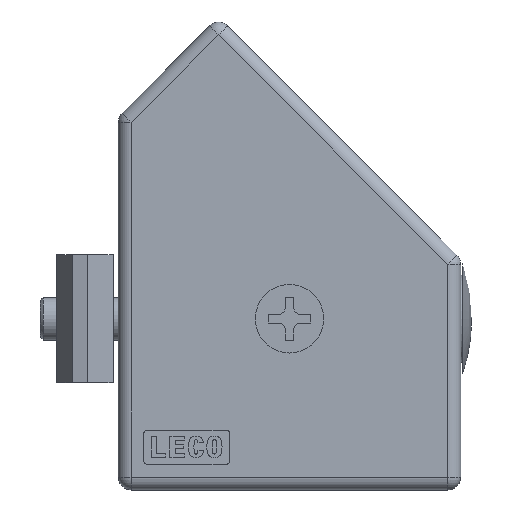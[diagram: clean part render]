
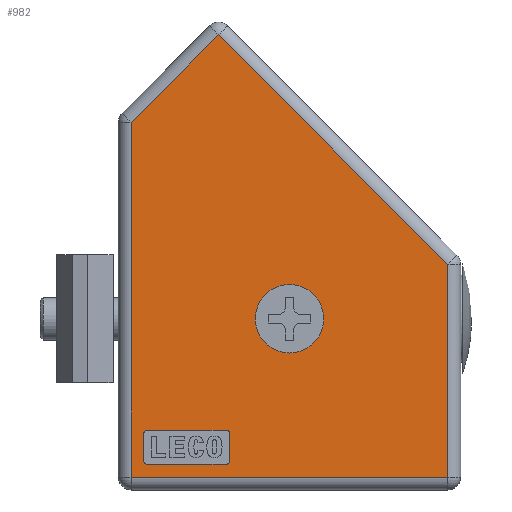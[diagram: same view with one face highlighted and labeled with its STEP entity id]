
A CAD part, left-side view. The second image highlights one B-rep face of the part: STEP entity #982.
In plain terms, the highlighted planar face has unit normal (-1, 0, 0) as drawn and (0, 0, 1) by its records, which use the part's own axes.
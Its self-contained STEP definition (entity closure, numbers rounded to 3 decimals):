
#982=ADVANCED_FACE('',(#2355,#2356,#2357),#2358,.F.);
#2355=FACE_BOUND('',#5450,.T.);
#2356=FACE_BOUND('',#5451,.T.);
#2357=FACE_OUTER_BOUND('',#5452,.T.);
#2358=PLANE('',#5453);
#5450=EDGE_LOOP('',(#10834,#10835,#10836,#10837,#10838,#10839,#10840,#10841));
#5451=EDGE_LOOP('',(#10842));
#5452=EDGE_LOOP('',(#10843,#10844,#10845,#10846,#10847));
#5453=AXIS2_PLACEMENT_3D('',#10848,#10849,#10850);
#10834=ORIENTED_EDGE('',*,*,#16009,.F.);
#10835=ORIENTED_EDGE('',*,*,#16010,.F.);
#10836=ORIENTED_EDGE('',*,*,#16011,.F.);
#10837=ORIENTED_EDGE('',*,*,#16012,.F.);
#10838=ORIENTED_EDGE('',*,*,#16013,.F.);
#10839=ORIENTED_EDGE('',*,*,#16014,.F.);
#10840=ORIENTED_EDGE('',*,*,#16015,.F.);
#10841=ORIENTED_EDGE('',*,*,#16016,.F.);
#10842=ORIENTED_EDGE('',*,*,#16017,.F.);
#10843=ORIENTED_EDGE('',*,*,#16018,.T.);
#10844=ORIENTED_EDGE('',*,*,#16019,.F.);
#10845=ORIENTED_EDGE('',*,*,#16020,.F.);
#10846=ORIENTED_EDGE('',*,*,#16021,.F.);
#10847=ORIENTED_EDGE('',*,*,#16022,.F.);
#10848=CARTESIAN_POINT('',(38.5,56.97,13.));
#10849=DIRECTION('',(0.0,0.0,-1.0));
#10850=DIRECTION('',(0.0,1.0,0.0));
#16009=EDGE_CURVE('',#18447,#18448,#18449,.T.);
#16010=EDGE_CURVE('',#18450,#18447,#18451,.T.);
#16011=EDGE_CURVE('',#18452,#18450,#18453,.T.);
#16012=EDGE_CURVE('',#18454,#18452,#18455,.T.);
#16013=EDGE_CURVE('',#18456,#18454,#18457,.T.);
#16014=EDGE_CURVE('',#18458,#18456,#18459,.T.);
#16015=EDGE_CURVE('',#18460,#18458,#18461,.T.);
#16016=EDGE_CURVE('',#18448,#18460,#18462,.T.);
#16017=EDGE_CURVE('',#18463,#18463,#18464,.T.);
#16018=EDGE_CURVE('',#18465,#18466,#18467,.T.);
#16019=EDGE_CURVE('',#18468,#18466,#18469,.T.);
#16020=EDGE_CURVE('',#18470,#18468,#18471,.T.);
#16021=EDGE_CURVE('',#18472,#18470,#18473,.T.);
#16022=EDGE_CURVE('',#18465,#18472,#18474,.T.);
#18447=VERTEX_POINT('',#22493);
#18448=VERTEX_POINT('',#22494);
#18449=CIRCLE('',#22495,0.4);
#18450=VERTEX_POINT('',#22496);
#18451=LINE('',#22497,#22498);
#18452=VERTEX_POINT('',#22499);
#18453=CIRCLE('',#22500,0.4);
#18454=VERTEX_POINT('',#22501);
#18455=LINE('',#22502,#22503);
#18456=VERTEX_POINT('',#22504);
#18457=CIRCLE('',#22505,0.4);
#18458=VERTEX_POINT('',#22506);
#18459=LINE('',#22507,#22508);
#18460=VERTEX_POINT('',#22509);
#18461=CIRCLE('',#22510,0.4);
#18462=LINE('',#22511,#22512);
#18463=VERTEX_POINT('',#22513);
#18464=CIRCLE('',#22514,4.0);
#18465=VERTEX_POINT('',#22515);
#18466=VERTEX_POINT('',#22516);
#18467=LINE('',#22517,#22518);
#18468=VERTEX_POINT('',#22519);
#18469=LINE('',#22520,#22521);
#18470=VERTEX_POINT('',#22522);
#18471=LINE('',#22523,#22524);
#18472=VERTEX_POINT('',#22525);
#18473=LINE('',#22526,#22527);
#18474=LINE('',#22528,#22529);
#22493=CARTESIAN_POINT('',(3.,3.4,13.));
#22494=CARTESIAN_POINT('',(3.4,3.,13.));
#22495=AXIS2_PLACEMENT_3D('',#27170,#27171,#27172);
#22496=CARTESIAN_POINT('',(3.,6.6,13.));
#22497=CARTESIAN_POINT('',(3.,6.6,13.));
#22498=VECTOR('',#27173,1.0);
#22499=CARTESIAN_POINT('',(3.4,7.,13.));
#22500=AXIS2_PLACEMENT_3D('',#27174,#27175,#27176);
#22501=CARTESIAN_POINT('',(12.6,7.,13.));
#22502=CARTESIAN_POINT('',(12.6,7.,13.));
#22503=VECTOR('',#27177,1.0);
#22504=CARTESIAN_POINT('',(13.,6.6,13.));
#22505=AXIS2_PLACEMENT_3D('',#27178,#27179,#27180);
#22506=CARTESIAN_POINT('',(13.,3.4,13.));
#22507=CARTESIAN_POINT('',(13.,3.4,13.));
#22508=VECTOR('',#27181,1.0);
#22509=CARTESIAN_POINT('',(12.6,3.,13.));
#22510=AXIS2_PLACEMENT_3D('',#27182,#27183,#27184);
#22511=CARTESIAN_POINT('',(3.4,3.,13.));
#22512=VECTOR('',#27185,1.0);
#22513=CARTESIAN_POINT('',(20.,24.,13.));
#22514=AXIS2_PLACEMENT_3D('',#27186,#27187,#27188);
#22515=CARTESIAN_POINT('',(1.5,42.947,13.));
#22516=CARTESIAN_POINT('',(1.5,1.5,13.));
#22517=CARTESIAN_POINT('',(1.5,56.97,13.));
#22518=VECTOR('',#27189,1.0);
#22519=CARTESIAN_POINT('',(38.5,1.5,13.));
#22520=CARTESIAN_POINT('',(44.836,1.5,13.));
#22521=VECTOR('',#27190,1.0);
#22522=CARTESIAN_POINT('',(38.5,26.379,13.));
#22523=CARTESIAN_POINT('',(38.5,56.97,13.));
#22524=VECTOR('',#27191,1.0);
#22525=CARTESIAN_POINT('',(11.716,53.163,13.));
#22526=CARTESIAN_POINT('',(23.204,41.675,13.));
#22527=VECTOR('',#27192,1.0);
#22528=CARTESIAN_POINT('',(27.012,68.459,13.));
#22529=VECTOR('',#27193,1.0);
#27170=CARTESIAN_POINT('',(3.4,3.4,13.));
#27171=DIRECTION('',(0.0,0.0,1.0));
#27172=DIRECTION('',(1.0,0.0,0.0));
#27173=DIRECTION('',(0.0,-1.0,0.0));
#27174=CARTESIAN_POINT('',(3.4,6.6,13.));
#27175=DIRECTION('',(0.0,0.0,1.0));
#27176=DIRECTION('',(1.0,0.0,0.0));
#27177=DIRECTION('',(-1.0,0.0,0.0));
#27178=CARTESIAN_POINT('',(12.6,6.6,13.));
#27179=DIRECTION('',(0.0,0.0,1.0));
#27180=DIRECTION('',(1.0,0.0,0.0));
#27181=DIRECTION('',(0.0,1.0,0.0));
#27182=CARTESIAN_POINT('',(12.6,3.4,13.));
#27183=DIRECTION('',(0.0,0.0,1.0));
#27184=DIRECTION('',(1.0,0.0,0.0));
#27185=DIRECTION('',(1.0,0.0,0.0));
#27186=CARTESIAN_POINT('',(20.,20.,13.));
#27187=DIRECTION('',(0.0,-0.0,1.0));
#27188=DIRECTION('',(0.0,1.0,0.0));
#27189=DIRECTION('',(0.0,-1.0,0.0));
#27190=DIRECTION('',(-1.0,0.0,0.0));
#27191=DIRECTION('',(0.0,-1.0,0.0));
#27192=DIRECTION('',(0.707,-0.707,0.0));
#27193=DIRECTION('',(0.707,0.707,0.0));
